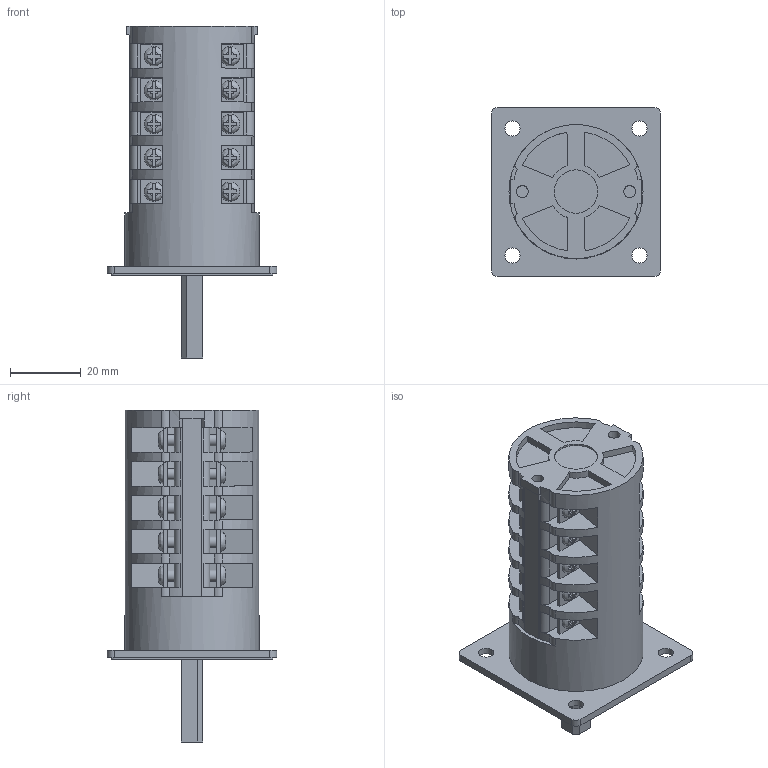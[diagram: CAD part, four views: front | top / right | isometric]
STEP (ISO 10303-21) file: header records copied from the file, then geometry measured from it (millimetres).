
FILE_DESCRIPTION(/* description */ (''),/* implementation_level */ '2;1');
FILE_NAME(/* name */ '4G10-U_standard_5_korpusow.stp',/* time_stamp */ '2021-07-21T07:41:47+02:00',/* author */ (''),/* organization */ (''),/* preprocessor_version */ 'ST-DEVELOPER v18.1',/* originating_system */ 'SIEMENS PLM Software NX 1965',/* authorisation */ '');
FILE_SCHEMA (('AUTOMOTIVE_DESIGN { 1 0 10303 214 3 1 1 1 }'));
Length unit declared in the file: millimetre
Products named in the file (1): 4G10-U_standard_5_korpusow_stp
Bounding box: 48 x 48 x 94.1 mm (x, y, z)
Volume: 68735.1 mm3; surface area: 23964.8 mm2
Topology: 1 solids, 1 shells, 753 faces, 2054 edges, 1368 vertices
Faces by surface type: plane 606, cylinder 125, bspline 20, torus 2
Full cylindrical faces by diameter (mm): 3.2 x20, 3.4 x3, 4.3 x4, 6.2 x2, 7.2 x4, 12.3 x1, 16.2 x1, 16.8 x1, 38 x1
Entity records: 23743 total; most frequent: CARTESIAN_POINT 5173, ORIENTED_EDGE 3894, DIRECTION 3693, EDGE_CURVE 1947, VERTEX_POINT 1320, LINE 1261, VECTOR 1261, AXIS2_PLACEMENT_3D 1216
